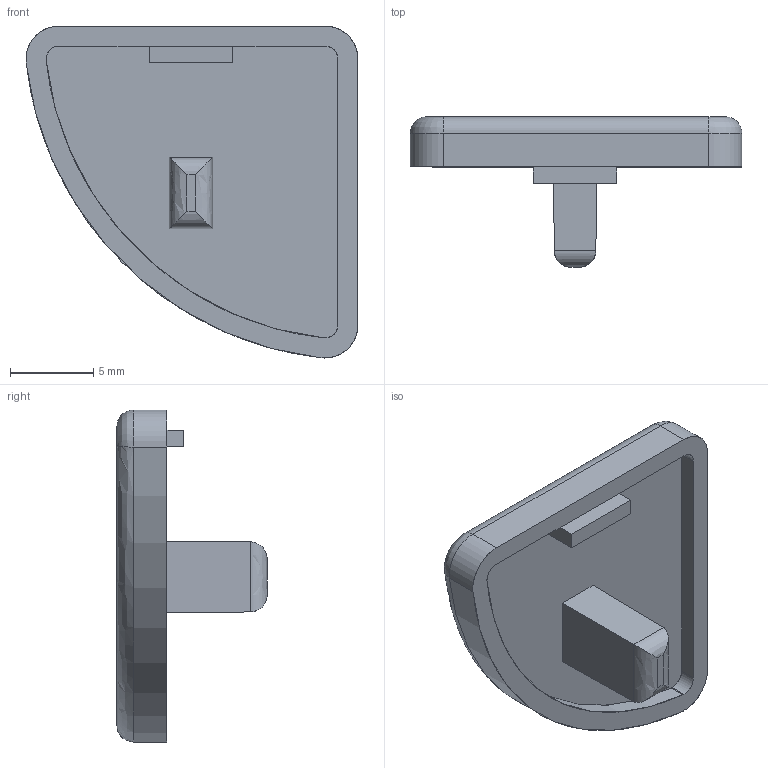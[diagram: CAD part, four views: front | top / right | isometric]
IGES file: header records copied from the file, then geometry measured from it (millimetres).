
Start section: SolidWorks IGES file using analytic representation for surfaces
Global section: file name: C:\Users\admin\Desktop\IGES\J2C.igs; native system: SolidWorks 2014; preprocessor: SolidWorks 2014; author: admin_pc; date: 170524.165157; units: millimetre
Bounding box: 19.89 x 9 x 19.89 mm (x, y, z)
Surface area: 961.5 mm2 (no closed solid volume)
Topology: 0 solids, 0 shells, 39 faces, 312 edges, 312 vertices
Faces by surface type: bspline 23, revolution 16
